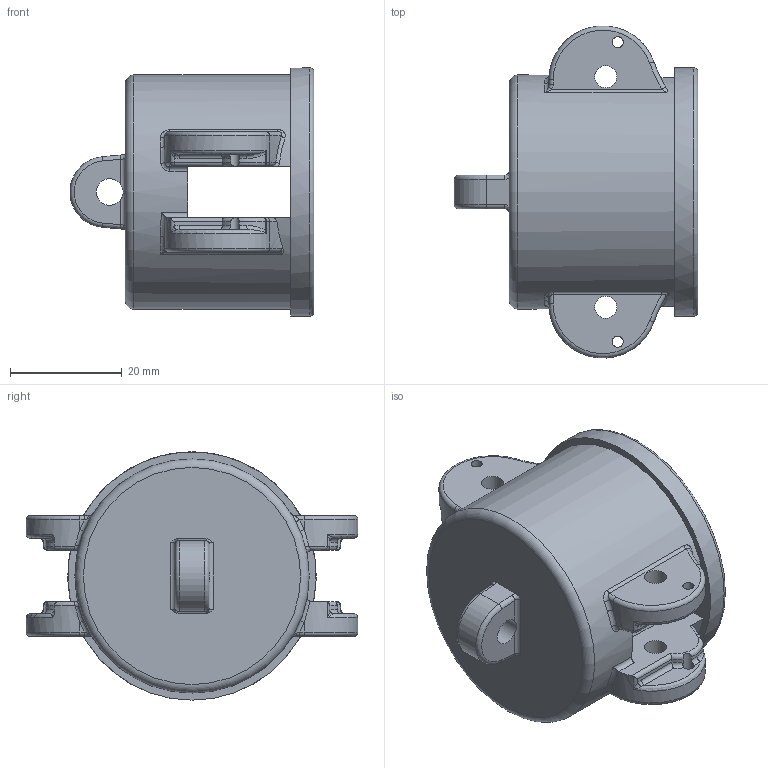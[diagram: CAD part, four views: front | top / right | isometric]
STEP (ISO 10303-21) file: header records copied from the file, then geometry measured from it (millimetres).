
FILE_DESCRIPTION(/* description */ ('Alibre Inc.'),/* implementation_level */ '2;1');
FILE_NAME(/* name */ 'export0',/* time_stamp */ '2016-01-24T16:02:16-05:00',/* author */ (''),/* organization */ (''),/* preprocessor_version */ 'ST-DEVELOPER v14',/* originating_system */ 'Alibre',/* authorisation */ '');
FILE_SCHEMA (('CONFIG_CONTROL_DESIGN'));
Length unit declared in the file: centimetre
Products named in the file (1): ID_1
Bounding box: 43.66 x 59.4 x 44.45 mm (x, y, z)
Volume: 24394.4 mm3; surface area: 12618.3 mm2
Topology: 1 solids, 1 shells, 172 faces, 461 edges, 278 vertices
Faces by surface type: cylinder 58, torus 43, plane 36, bspline 34, sphere 1
Full cylindrical faces by diameter (mm): 1.981 x4, 3.962 x4, 4.775 x1, 32.512 x1, 35.814 x1, 41.91 x1, 44.45 x1
Entity records: 10666 total; most frequent: CARTESIAN_POINT 6865, ORIENTED_EDGE 864, DIRECTION 619, EDGE_CURVE 432, AXIS2_PLACEMENT_3D 286, VERTEX_POINT 270, EDGE_LOOP 202, FACE_BOUND 202
